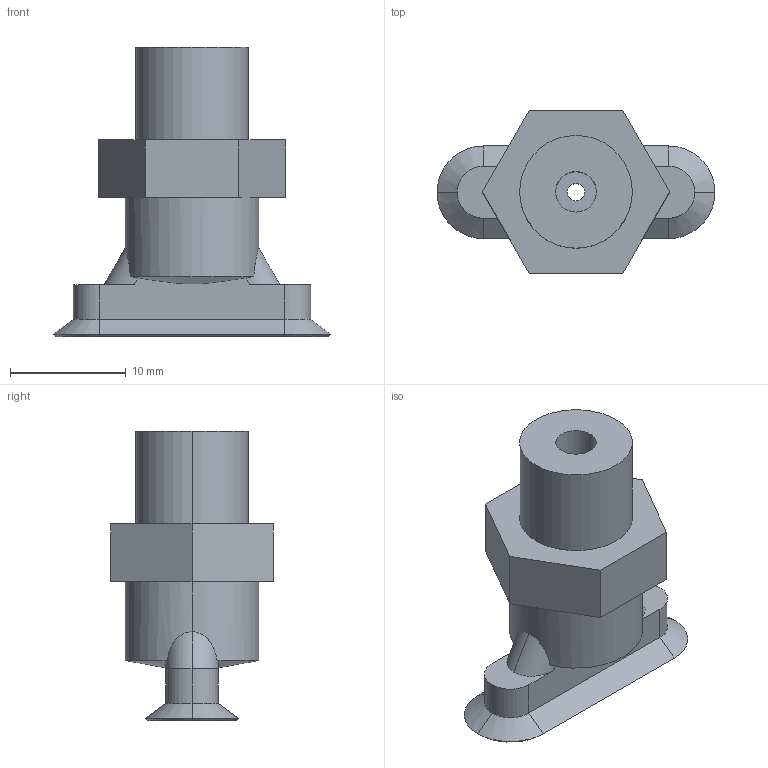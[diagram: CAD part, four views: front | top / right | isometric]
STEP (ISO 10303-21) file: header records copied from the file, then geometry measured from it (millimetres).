
FILE_DESCRIPTION(('STEP AP214'),'1');
FILE_NAME('10_01_05_00409.stp','2021-01-28T16:52:16',('TraceParts'),('TraceParts S.A.'),'Spatial InterOp 3D',' ',' ');
FILE_SCHEMA(('AUTOMOTIVE_DESIGN { 1 0 10303 214 1 1 1 1 }'));
Length unit declared in the file: millimetre
Products named in the file (1): 10_01_05_00409
Bounding box: 24 x 14 x 25 mm (x, y, z)
Volume: 2376.5 mm3; surface area: 1793 mm2
Topology: 1 solids, 2 shells, 56 faces, 128 edges, 78 vertices
Faces by surface type: plane 22, cylinder 18, cone 16
Entity records: 2107 total; most frequent: CARTESIAN_POINT 365, DIRECTION 270, ORIENTED_EDGE 256, EDGE_CURVE 128, AXIS2_PLACEMENT_3D 99, VERTEX_POINT 78, LINE 72, VECTOR 72
